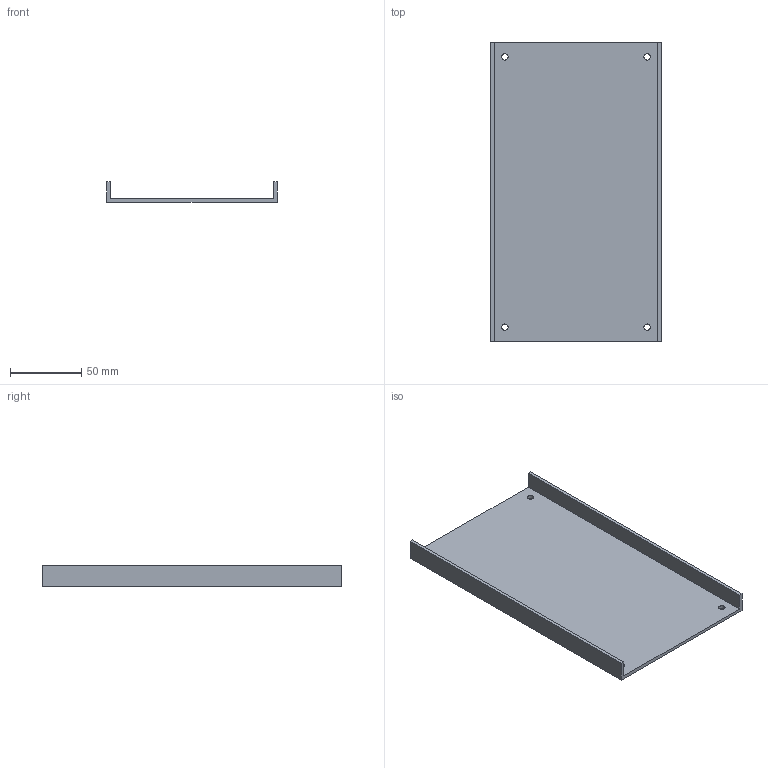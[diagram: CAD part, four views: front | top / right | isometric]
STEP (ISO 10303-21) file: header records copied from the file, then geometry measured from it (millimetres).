
FILE_DESCRIPTION(('Open CASCADE Model'),'2;1');
FILE_NAME('Open CASCADE Shape Model','2026-09-13T22:06:44',('Author'),( 'Open CASCADE'),'Open CASCADE STEP processor 7.9','Open CASCADE 7.9' ,'Unknown');
FILE_SCHEMA(('AUTOMOTIVE_DESIGN { 1 0 10303 214 1 1 1 1 }'));
Length unit declared in the file: millimetre
Products named in the file (1): Open CASCADE STEP translator 7.9 3
Bounding box: 120 x 210 x 14.5 mm (x, y, z)
Volume: 75441 mm3; surface area: 62264.1 mm2
Topology: 1 solids, 1 shells, 14 faces, 36 edges, 24 vertices
Faces by surface type: plane 10, cylinder 4
Full cylindrical faces by diameter (mm): 4.5 x4
Entity records: 946 total; most frequent: CARTESIAN_POINT 195, DIRECTION 138, LINE 92, VECTOR 92, ORIENTED_EDGE 72, PCURVE 72, DEFINITIONAL_REPRESENTATION 72, EDGE_CURVE 36
